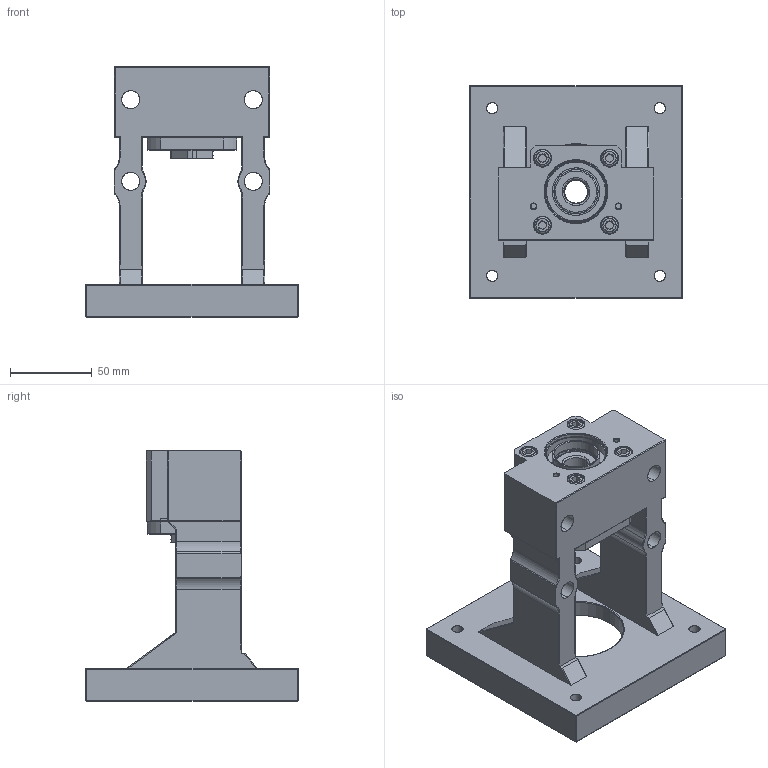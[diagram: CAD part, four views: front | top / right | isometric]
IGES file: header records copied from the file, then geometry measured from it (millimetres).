
Start section: SolidWorks IGES file using analytic representation for surfaces
Global section: file name: C:\Users\117\Desktop\1061208網站3D圖檔問題處理\傳動座\整合型\MBCS(F)\MBCS15\MBCS15-G.IGS,15HSolidWorks; native system: 2017; preprocessor: SolidWorks 2017; author: 117; date: 171228.154851; units: millimetre
Bounding box: 130 x 130 x 153 mm (x, y, z)
Surface area: 108906.7 mm2 (no closed solid volume)
Topology: 0 solids, 0 shells, 377 faces, 5302 edges, 5268 vertices
Faces by surface type: revolution 223, bspline 154
